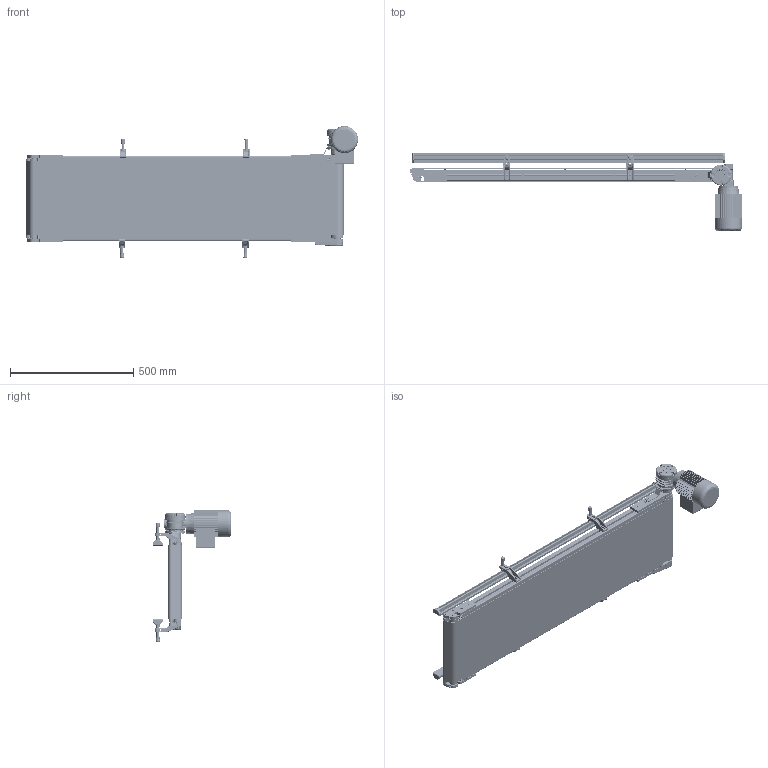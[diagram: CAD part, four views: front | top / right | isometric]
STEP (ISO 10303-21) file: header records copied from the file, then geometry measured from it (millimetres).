
FILE_DESCRIPTION (( 'STEP AP214' ), '1' );
FILE_NAME ('NASTRO_RETTILINEO_TAPPETO.step', '2026-05-08T11:28:18', ( 'Utente Windows' ), ( '' ), 'SwSTEP 2.0', 'SolidWorks 2024', '' );
FILE_SCHEMA (( 'AUTOMOTIVE_DESIGN' ));
Length unit declared in the file: millimetre
Products named in the file (70): VITE_DADO_M5X12; 08UNI7435; P210RLM-0816-77; 084.807.003_084.807.003<A macchina>; 084.803.018; CHIAVETTE_A 5x5x20 UNI 6604-69; NASTRO_RETTILINEO_TAPPETO; 084.811.004; 084.807.016_084.807.002; 084.802.065_Default<A macchina>; VITI TSEI UNI 5933_M4x12 UNI 5933; CHIAVETTE_A 5x5x40 UNI 6604-69; VITI TE UNI 5739_M6x16 UNI 5739; 084.301.000 VITI ALUSIC_084.301.009; RONDELLE UNI 6592_5.3x10 UNI 6592; TAPPETO_STANDARD_1PENNA; 14UNI7435; 084.827.040; CH03P_DX; 084.802.036; 084.711.007; 084.802.062; VITI TCEI UNI 5931_M6x20 UNI 5931; 12UNI7435; VITI TSEI UNI 5933 INOX_0412UNI5933A2; RONDELLE FASCIA LARGA UNI 6593_5.4x20 UNI 6593; 084.302.000 DADI ALUSIC 13x13-1_084.302.004; 084.712.002; 084.302.000 DADI ALUSIC 9x9_084.302.014; BLOCCO_TRAINO_50_STANDARD_30_DX; 084.809.007; BLOCCO_BRACCIO_CH03P_VF30P; 084.711.006_L1; VITI TCEI UNI 5931_M4x25 UNI 5931; 084.807.015_084.807.002; RULLO_SUP_50_PENNA; BLOCCO_RINVIO_50_PENNA_SX; VITE_RONDELLA_M8X20; BLOCCO_TRAINO_50_STANDARD; PERNO_INF_50_PENNA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
Assembly tree (120 placements, depth 4):
  P210RLM-0816-77
  NASTRO_RETTILINEO_TAPPETO
    TAPPETO_STANDARD_1PENNA
    TELAIO_50_STANDARD_Default<A macchina>
    LAMIERA_1_PENNA
    RULLO_50_Default<A macchina>
    BLOCCO_PERNO_50_30
      084.810.001
      084.811.001
      RONDELLE FASCIA LARGA UNI 6593_5.4x20 UNI 6593
      084.301.000 VITI ALUSIC_084.301.009
      CHIAVETTE_A 5x5x40 UNI 6604-69
      CHIAVETTE_A 5x5x20 UNI 6604-69
      14UNI7435
    BLOCCO_TRAINO_50_STANDARD_30_DX
      084.807.003_084.807.003<A macchina>
      084.802.017_084.802.017
      084.301.000 VITI ALUSIC_084.301.003  x2
      084.302.000 DADI ALUSIC 13x13-1_084.302.004  x2
      BLOCCO_BRACCIO_CH03P_VF30P
        084.808.012
        084.802.062
        084.802.061
        VITI TE UNI 5739_M6x16 UNI 5739  x4
        084.803.018
        VITI TCEI UNI 5931_M6x12 UNI 5931  x4
      084.802.065_Default<A macchina>
      VITI TCEI UNI 5931_M4x25 UNI 5931  x2
    BLOCCO_PERNO_50_RINVIO
      084.811.004
      084.810.001
    BLOCCO_TRAINO_50_STANDARD
      084.807.002_084.807.002
      084.802.017_084.802.017
      084.301.000 VITI ALUSIC_084.301.003  x2
      084.302.000 DADI ALUSIC 13x13-1_084.302.004  x2
      VITI TSEI UNI 5933_M4x12 UNI 5933  x4
      084.802.071
      VITI TSEI UNI 5933 INOX_0412UNI5933A2  x2
    RULLO_SUP_50_PENNA
    BLOCCO_RINVIO_50_PENNA_SX
      084.807.016_084.807.002
      084.809.007
      084.802.036
      VITI TCEI UNI 5931_M6x30 UNI 5931
      RONDELLE UNI 6592_5.3x10 UNI 6592  x2
      084.302.000 DADI ALUSIC 9x9_084.302.014  x2
      VITI TCEI UNI 5931_M6x20 UNI 5931
      084.301.000 VITI ALUSIC_084.301.036
      084.302.016
      084.301.000 VITI ALUSIC_084.301.003  x2
      VITI TE UNI 5739 INOX_M5x12 UNI 5739 INOX  x2
      12UNI7435
      08UNI7435  x3
    BLOCCO_RINVIO_50_PENNA_DX
      084.802.036
      084.807.015_084.807.002
      VITI TCEI UNI 5931_M6x30 UNI 5931
      084.827.040
      VITI TCEI UNI 5931_M6x20 UNI 5931
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Bounding box: 1345 x 317 x 533.93 mm (x, y, z)
Volume: 8109316.3 mm3; surface area: 5514221.8 mm2
Topology: 149 solids, 155 shells, 6790 faces, 17257 edges, 10886 vertices
Faces by surface type: plane 3083, cylinder 2349, cone 489, torus 407, bspline 384, sphere 78
Entity records: 161787 total; most frequent: CARTESIAN_POINT 45853, ORIENTED_EDGE 24464, DIRECTION 23068, EDGE_CURVE 12232, AXIS2_PLACEMENT_3D 8103, VERTEX_POINT 7830, LINE 6862, VECTOR 6862
